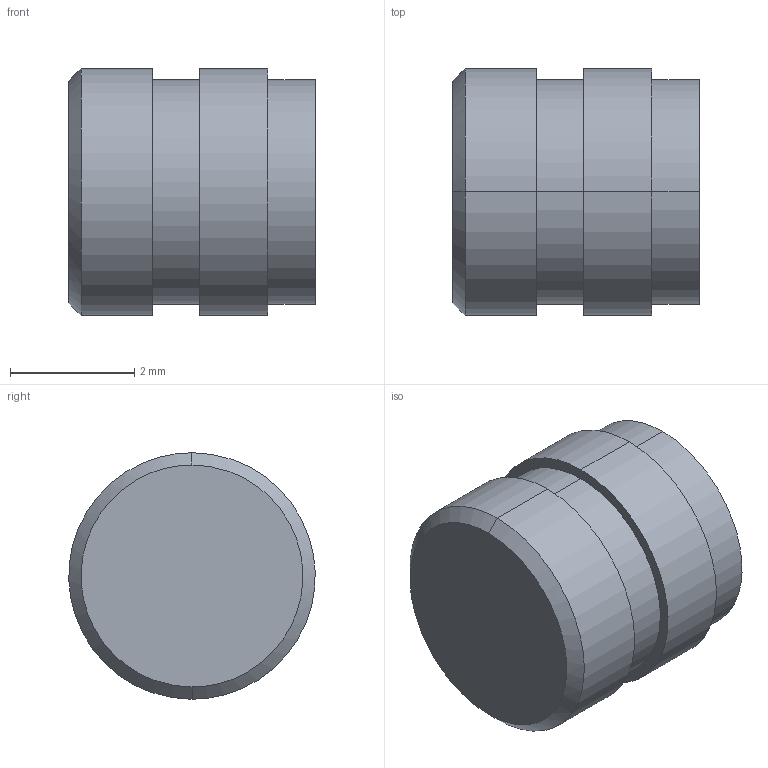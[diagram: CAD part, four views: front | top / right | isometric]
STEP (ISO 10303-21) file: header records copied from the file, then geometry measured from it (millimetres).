
FILE_DESCRIPTION ((), '1');
FILE_NAME ('\\storage\home\drew.stangler\Stocking Inserts\IBB-256-4-PennEngineering-05-30-2019-Part.stp', '2019-05-30T11:02:29', ('Unknown'), ('Unknown'), 'HarmonyWare STEP v2.0.9', 'HarmonyWare Translators', '');
FILE_SCHEMA (('CONFIG_CONTROL_DESIGN'));
Length unit declared in the file: inch
Bounding box: 3.96 x 3.96 x 3.96 mm (x, y, z)
Volume: 36.8 mm3; surface area: 93.8 mm2
Topology: 1 solids, 1 shells, 24 faces, 48 edges, 29 vertices
Faces by surface type: bspline 24
Entity records: 1027 total; most frequent: CARTESIAN_POINT 457, ORIENTED_EDGE 92, EDGE_CURVE 46, VERTEX_POINT 29, EDGE_LOOP 29, COLOUR_RGB 25, FILL_AREA_STYLE_COLOUR 25, FILL_AREA_STYLE 25
